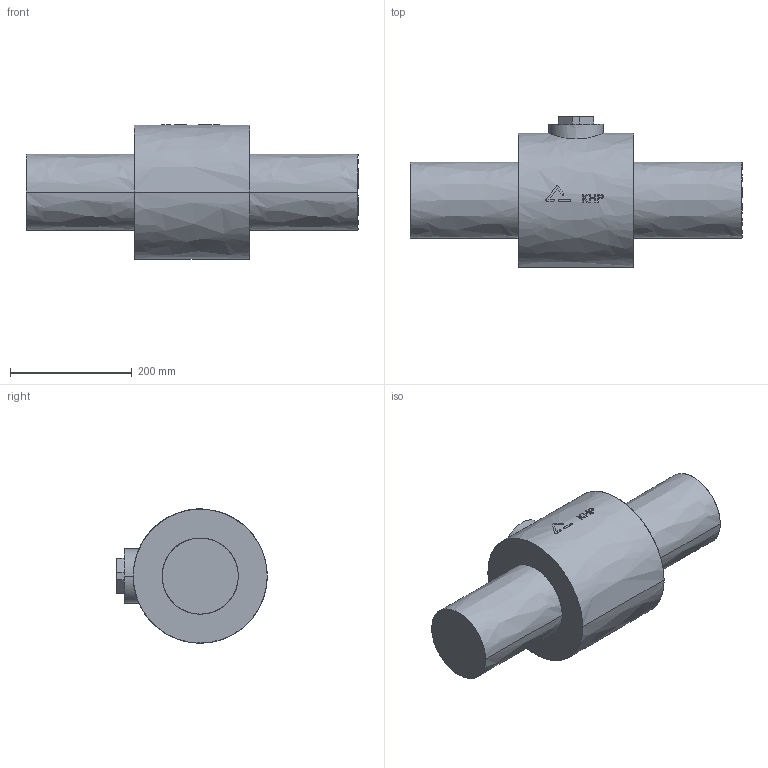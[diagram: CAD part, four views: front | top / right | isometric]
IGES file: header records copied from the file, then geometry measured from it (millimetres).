
Start section:  PTC IGES file: khp_d125.igs
Global section: file name: khp_d125.igs; native system: Pro/ENGINEER by Parametric Technology Corporation; preprocessor: 2006140; author: muellerc; organization: Unknown; date: 20060803.080937; units: millimetre
Bounding box: 545 x 247 x 220.3 mm (x, y, z)
Surface area: 355566.1 mm2 (no closed solid volume)
Topology: 0 solids, 0 shells, 95 faces, 545 edges, 548 vertices
Faces by surface type: bspline 95
